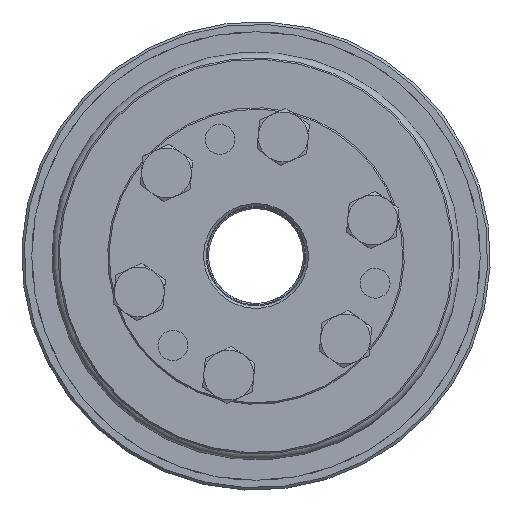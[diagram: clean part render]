
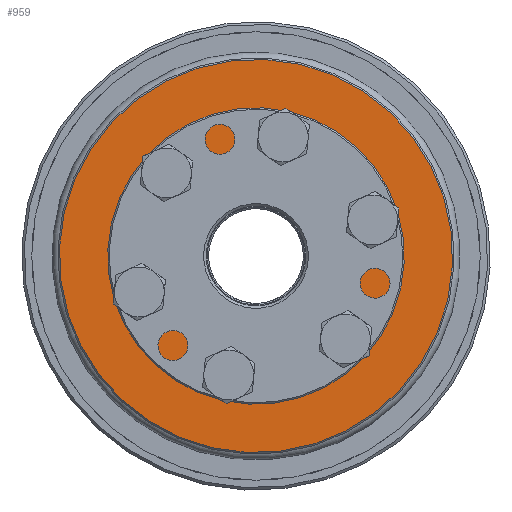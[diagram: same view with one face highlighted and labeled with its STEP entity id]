
A CAD part, left-side view. The second image highlights one B-rep face of the part: STEP entity #959.
In plain terms, the highlighted planar face has unit normal (-1, 0, 0) as drawn and (1, 0, 0) by its records, which use the part's own axes.
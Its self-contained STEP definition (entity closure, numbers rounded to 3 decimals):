
#959 = ADVANCED_FACE( 'NONE', ( #1962, #1963, #1964, #1965, #1966, #1967, #1968, #1969 ), #1970, .F. );
#1962 = FACE_OUTER_BOUND( '', #3057, .T. );
#1963 = FACE_BOUND( '', #3058, .T. );
#1964 = FACE_BOUND( '', #3059, .T. );
#1965 = FACE_BOUND( '', #3060, .T. );
#1966 = FACE_BOUND( '', #3061, .T. );
#1967 = FACE_BOUND( '', #3062, .T. );
#1968 = FACE_BOUND( '', #3063, .T. );
#1969 = FACE_BOUND( '', #3064, .T. );
#1970 = PLANE( '', #3065 );
#3057 = EDGE_LOOP( '', ( #4447 ) );
#3058 = EDGE_LOOP( '', ( #4448 ) );
#3059 = EDGE_LOOP( '', ( #4449 ) );
#3060 = EDGE_LOOP( '', ( #4450 ) );
#3061 = EDGE_LOOP( '', ( #4451 ) );
#3062 = EDGE_LOOP( '', ( #4452 ) );
#3063 = EDGE_LOOP( '', ( #4453 ) );
#3064 = EDGE_LOOP( '', ( #4454 ) );
#3065 = AXIS2_PLACEMENT_3D( '', #4455, #4456, #4457 );
#4447 = ORIENTED_EDGE( '', *, *, #5263, .T. );
#4448 = ORIENTED_EDGE( '', *, *, #5614, .T. );
#4449 = ORIENTED_EDGE( '', *, *, #5244, .F. );
#4450 = ORIENTED_EDGE( '', *, *, #5615, .F. );
#4451 = ORIENTED_EDGE( '', *, *, #5205, .F. );
#4452 = ORIENTED_EDGE( '', *, *, #5564, .F. );
#4453 = ORIENTED_EDGE( '', *, *, #5540, .F. );
#4454 = ORIENTED_EDGE( '', *, *, #5616, .F. );
#4455 = CARTESIAN_POINT( '', ( 20., 39.75, 0. ) );
#4456 = DIRECTION( '', ( -1., 0., 0. ) );
#4457 = DIRECTION( '', ( 0., 0., 1. ) );
#5205 = EDGE_CURVE( 'NONE', #5823, #5823, #5824, .T. );
#5244 = EDGE_CURVE( 'NONE', #5891, #5891, #5892, .T. );
#5263 = EDGE_CURVE( 'NONE', #5923, #5923, #5924, .T. );
#5540 = EDGE_CURVE( 'NONE', #6366, #6366, #6367, .T. );
#5564 = EDGE_CURVE( 'NONE', #6400, #6400, #6401, .T. );
#5614 = EDGE_CURVE( 'NONE', #6467, #6467, #6468, .T. );
#5615 = EDGE_CURVE( 'NONE', #6469, #6469, #6470, .T. );
#5616 = EDGE_CURVE( 'NONE', #6471, #6471, #6472, .T. );
#5823 = VERTEX_POINT( '', #6718 );
#5824 = CIRCLE( '', #6719, 3. );
#5891 = VERTEX_POINT( '', #6939 );
#5892 = CIRCLE( '', #6940, 3. );
#5923 = VERTEX_POINT( '', #6984 );
#5924 = CIRCLE( '', #6985, 39.45 );
#6366 = VERTEX_POINT( '', #7701 );
#6367 = CIRCLE( '', #7702, 3. );
#6400 = VERTEX_POINT( '', #7751 );
#6401 = CIRCLE( '', #7752, 3. );
#6467 = VERTEX_POINT( '', #7829 );
#6468 = CIRCLE( '', #7830, 20.835 );
#6469 = VERTEX_POINT( '', #7831 );
#6470 = CIRCLE( '', #7832, 3. );
#6471 = VERTEX_POINT( '', #7833 );
#6472 = CIRCLE( '', #7834, 3. );
#6718 = CARTESIAN_POINT( '', ( 20., 12.25, -24.218 ) );
#6719 = AXIS2_PLACEMENT_3D( '', #8129, #8130, #8131 );
#6939 = CARTESIAN_POINT( '', ( 20., -12.25, 18.218 ) );
#6940 = AXIS2_PLACEMENT_3D( '', #8207, #8208, #8209 );
#6984 = CARTESIAN_POINT( '', ( 20., 0., 39.45 ) );
#6985 = AXIS2_PLACEMENT_3D( '', #8235, #8236, #8237 );
#7701 = CARTESIAN_POINT( '', ( 20., -24.5, -3. ) );
#7702 = AXIS2_PLACEMENT_3D( '', #8686, #8687, #8688 );
#7751 = CARTESIAN_POINT( '', ( 20., -12.25, -24.218 ) );
#7752 = AXIS2_PLACEMENT_3D( '', #8714, #8715, #8716 );
#7829 = CARTESIAN_POINT( '', ( 20., 0., 20.835 ) );
#7830 = AXIS2_PLACEMENT_3D( '', #8776, #8777, #8778 );
#7831 = CARTESIAN_POINT( '', ( 20., 24.5, -3. ) );
#7832 = AXIS2_PLACEMENT_3D( '', #8779, #8780, #8781 );
#7833 = CARTESIAN_POINT( '', ( 20., 12.25, 18.218 ) );
#7834 = AXIS2_PLACEMENT_3D( '', #8782, #8783, #8784 );
#8129 = CARTESIAN_POINT( '', ( 20., 12.25, -21.218 ) );
#8130 = DIRECTION( '', ( 1., 0., 0. ) );
#8131 = DIRECTION( '', ( 0., 0., -1. ) );
#8207 = CARTESIAN_POINT( '', ( 20., -12.25, 21.218 ) );
#8208 = DIRECTION( '', ( 1., 0., 0. ) );
#8209 = DIRECTION( '', ( 0., 0., -1. ) );
#8235 = CARTESIAN_POINT( '', ( 20., 0., 0. ) );
#8236 = DIRECTION( '', ( 1., 0., 0. ) );
#8237 = DIRECTION( '', ( 0., 0., 1. ) );
#8686 = CARTESIAN_POINT( '', ( 20., -24.5, 0. ) );
#8687 = DIRECTION( '', ( 1., 0., 0. ) );
#8688 = DIRECTION( '', ( 0., 0., -1. ) );
#8714 = CARTESIAN_POINT( '', ( 20., -12.25, -21.218 ) );
#8715 = DIRECTION( '', ( 1., 0., 0. ) );
#8716 = DIRECTION( '', ( 0., 0., -1. ) );
#8776 = CARTESIAN_POINT( '', ( 20., 0., 0. ) );
#8777 = DIRECTION( '', ( -1., 0., 0. ) );
#8778 = DIRECTION( '', ( 0., 0., 1. ) );
#8779 = CARTESIAN_POINT( '', ( 20., 24.5, 0. ) );
#8780 = DIRECTION( '', ( 1., 0., 0. ) );
#8781 = DIRECTION( '', ( 0., 0., -1. ) );
#8782 = CARTESIAN_POINT( '', ( 20., 12.25, 21.218 ) );
#8783 = DIRECTION( '', ( 1., 0., 0. ) );
#8784 = DIRECTION( '', ( 0., 0., -1. ) );
